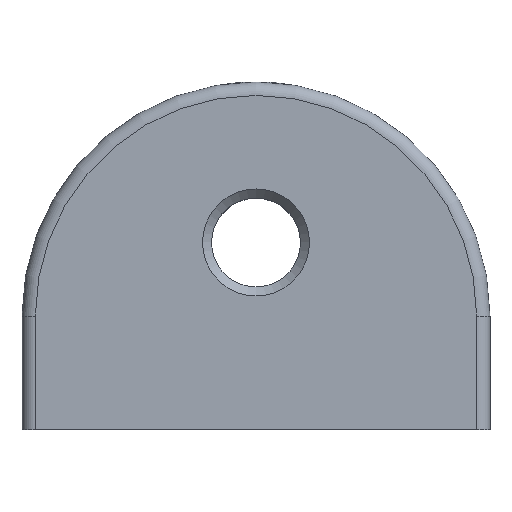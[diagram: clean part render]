
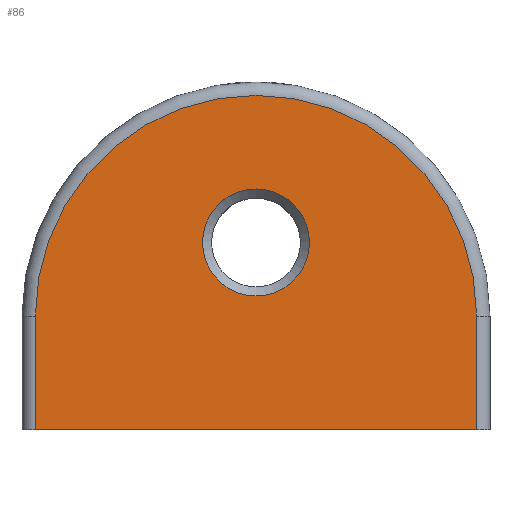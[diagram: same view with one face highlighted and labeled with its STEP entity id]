
A CAD part, top view. The second image highlights one B-rep face of the part: STEP entity #86.
In plain terms, the highlighted planar face has unit normal (0, 0, 1).
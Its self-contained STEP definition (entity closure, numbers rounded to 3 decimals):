
#86 = ADVANCED_FACE( '', ( #148, #149 ), #150, .F. );
#148 = FACE_BOUND( '', #254, .T. );
#149 = FACE_OUTER_BOUND( '', #255, .T. );
#150 = PLANE( '', #256 );
#254 = EDGE_LOOP( '', ( #413 ) );
#255 = EDGE_LOOP( '', ( #414, #415, #416, #417 ) );
#256 = AXIS2_PLACEMENT_3D( '', #418, #419, #420 );
#413 = ORIENTED_EDGE( '', *, *, #621, .T. );
#414 = ORIENTED_EDGE( '', *, *, #651, .F. );
#415 = ORIENTED_EDGE( '', *, *, #628, .F. );
#416 = ORIENTED_EDGE( '', *, *, #652, .T. );
#417 = ORIENTED_EDGE( '', *, *, #644, .T. );
#418 = CARTESIAN_POINT( '', ( -16.5, 8.5, 6. ) );
#419 = DIRECTION( '', ( 0., 0., -1. ) );
#420 = DIRECTION( '', ( -1., 0., 0. ) );
#621 = EDGE_CURVE( '', #707, #707, #708, .T. );
#628 = EDGE_CURVE( '', #720, #722, #723, .T. );
#644 = EDGE_CURVE( '', #752, #750, #753, .T. );
#651 = EDGE_CURVE( '', #722, #750, #761, .T. );
#652 = EDGE_CURVE( '', #720, #752, #762, .T. );
#707 = VERTEX_POINT( '', #953 );
#708 = CIRCLE( '', #954, 4. );
#720 = VERTEX_POINT( '', #966 );
#722 = VERTEX_POINT( '', #968 );
#723 = CIRCLE( '', #969, 16.5 );
#750 = VERTEX_POINT( '', #1005 );
#752 = VERTEX_POINT( '', #1007 );
#753 = LINE( '', #1008, #1009 );
#761 = LINE( '', #1021, #1022 );
#762 = LINE( '', #1023, #1024 );
#953 = CARTESIAN_POINT( '', ( -4., 14., 6. ) );
#954 = AXIS2_PLACEMENT_3D( '', #1132, #1133, #1134 );
#966 = CARTESIAN_POINT( '', ( -16.5, 8.5, 6. ) );
#968 = CARTESIAN_POINT( '', ( 16.5, 8.5, 6. ) );
#969 = AXIS2_PLACEMENT_3D( '', #1153, #1154, #1155 );
#1005 = CARTESIAN_POINT( '', ( 16.5, 0., 6. ) );
#1007 = CARTESIAN_POINT( '', ( -16.5, 0., 6. ) );
#1008 = CARTESIAN_POINT( '', ( -16.5, 0., 6. ) );
#1009 = VECTOR( '', #1183, 1000. );
#1021 = CARTESIAN_POINT( '', ( 16.5, 8.5, 6. ) );
#1022 = VECTOR( '', #1194, 1000. );
#1023 = CARTESIAN_POINT( '', ( -16.5, 8.5, 6. ) );
#1024 = VECTOR( '', #1195, 1000. );
#1132 = CARTESIAN_POINT( '', ( 0., 14., 6. ) );
#1133 = DIRECTION( '', ( 0., 0., -1. ) );
#1134 = DIRECTION( '', ( -1., 0., 0. ) );
#1153 = CARTESIAN_POINT( '', ( 0., 8.5, 6. ) );
#1154 = DIRECTION( '', ( 0., 0., -1. ) );
#1155 = DIRECTION( '', ( -1., 0., 0. ) );
#1183 = DIRECTION( '', ( 1., 0., 0. ) );
#1194 = DIRECTION( '', ( 0., -1., 0. ) );
#1195 = DIRECTION( '', ( 0., -1., 0. ) );
